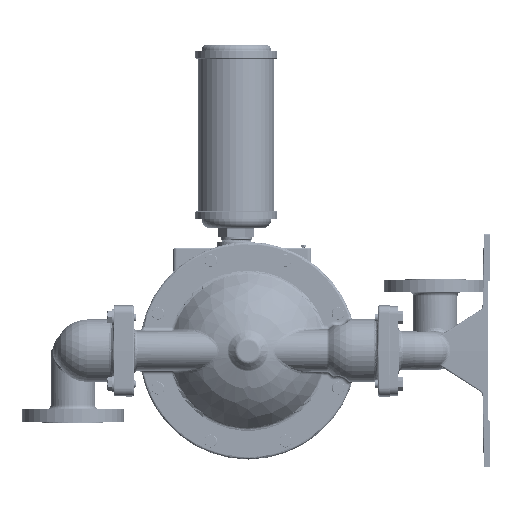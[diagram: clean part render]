
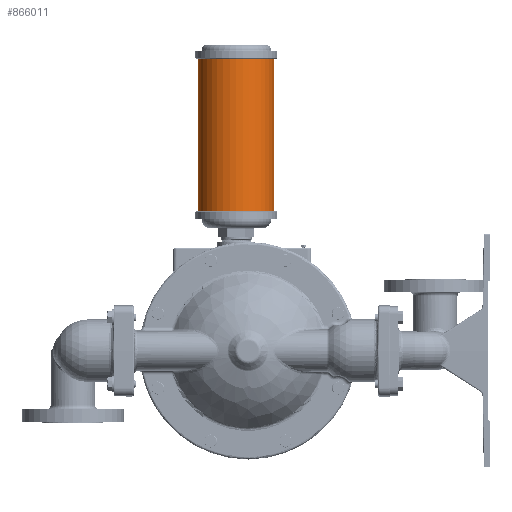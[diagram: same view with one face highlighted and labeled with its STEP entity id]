
A CAD part, left-side view. The second image highlights one B-rep face of the part: STEP entity #866011.
In plain terms, the highlighted cylindrical face has radius 61.722 mm (diameter 123.444 mm), a partial arc.
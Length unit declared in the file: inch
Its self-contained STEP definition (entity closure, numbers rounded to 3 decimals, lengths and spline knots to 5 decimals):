
#699467=DIRECTION('',(0.,0.,1.));
#699468=VECTOR('',#699467,9.78);
#699469=CARTESIAN_POINT('',(0.,3.18,8.905));
#699470=LINE('',#699469,#699468);
#699471=DIRECTION('',(0.,0.,1.));
#699472=VECTOR('',#699471,9.78);
#699473=CARTESIAN_POINT('',(0.,-1.68,8.905));
#699474=LINE('',#699473,#699472);
#699475=CARTESIAN_POINT('',(0.,0.75,8.905));
#699476=DIRECTION('',(0.,0.,1.));
#699477=DIRECTION('',(0.,1.,0.));
#699478=AXIS2_PLACEMENT_3D('',#699475,#699476,#699477);
#699500=CARTESIAN_POINT('',(0.,0.75,18.685));
#699501=DIRECTION('',(0.,0.,1.));
#699502=DIRECTION('',(0.,1.,0.));
#699503=AXIS2_PLACEMENT_3D('',#699500,#699501,#699502);
#843249=CARTESIAN_POINT('',(0.,3.18,8.905));
#843250=CARTESIAN_POINT('',(0.,3.18,18.685));
#843251=VERTEX_POINT('',#843249);
#843252=VERTEX_POINT('',#843250);
#843253=CARTESIAN_POINT('',(0.,-1.68,8.905));
#843254=CARTESIAN_POINT('',(0.,-1.68,18.685));
#843255=VERTEX_POINT('',#843253);
#843256=VERTEX_POINT('',#843254);
#865997=CARTESIAN_POINT('',(0.,0.75,20.1725));
#865998=DIRECTION('',(0.,0.,-1.));
#865999=DIRECTION('',(0.,-1.,0.));
#866000=AXIS2_PLACEMENT_3D('',#865997,#865998,#865999);
#866001=CYLINDRICAL_SURFACE('',#866000,2.43);
#866003=ORIENTED_EDGE('',*,*,#866002,.T.);
#866005=ORIENTED_EDGE('',*,*,#866004,.T.);
#866007=ORIENTED_EDGE('',*,*,#866006,.F.);
#866008=ORIENTED_EDGE('',*,*,#865978,.F.);
#866009=EDGE_LOOP('',(#866003,#866005,#866007,#866008));
#866010=FACE_OUTER_BOUND('',#866009,.F.);
#699479=CIRCLE('',#699478,2.43);
#699504=CIRCLE('',#699503,2.43);
#865978=EDGE_CURVE('',#843251,#843255,#699479,.T.);
#866002=EDGE_CURVE('',#843251,#843252,#699470,.T.);
#866004=EDGE_CURVE('',#843252,#843256,#699504,.T.);
#866006=EDGE_CURVE('',#843255,#843256,#699474,.T.);
#866011=ADVANCED_FACE('',(#866010),#866001,.T.);
